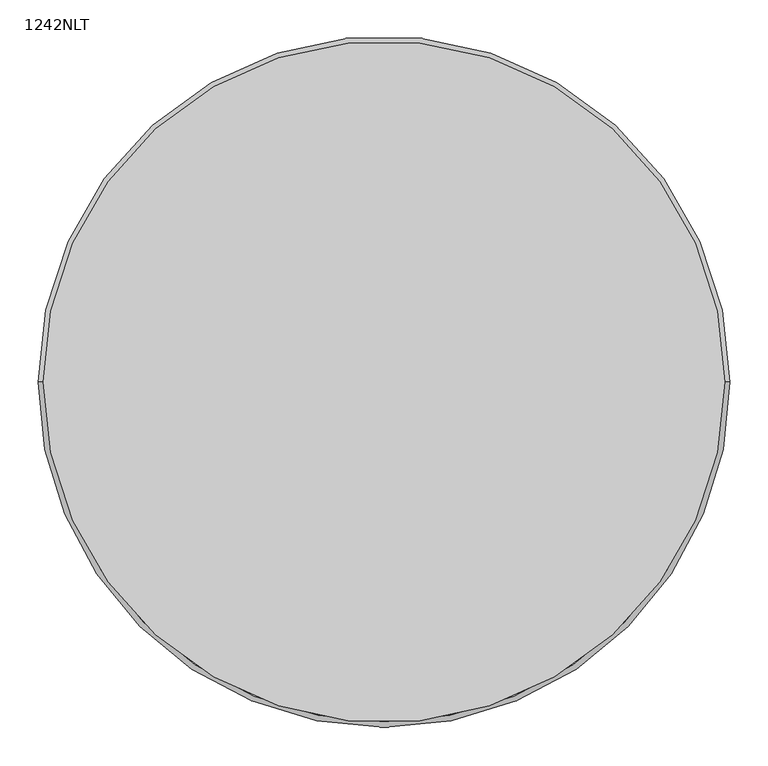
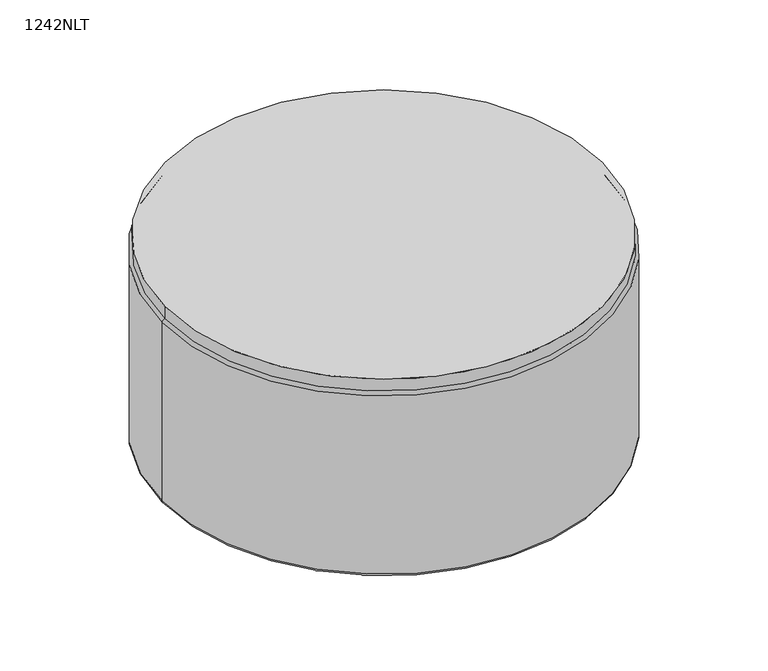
"""IFC4 building model written with IfcOpenShell, lengths in millimetres: furniture geometry, Laguna-Round_Ottomans-No_Legs-ERG : 1242NLT."""

from ifc_helpers import new_model, si_unit, point, frame, frame_2d, origin, place, context, project, spatial, circle_curve, ellipse_curve, trimmed, segment, composite_curve, outline, extrude, source, transform, mapped, element, save
from ifc_brep_helpers import plane_surface, cylinder_surface, revolved_surface, advanced_brep


def furniture_1242nlt_74572b88(model_context):
    return source(origin(), model_context, "Body", "SolidModel", [
        extrude(outline(composite_curve([segment(trimmed(circle_curve(frame_2d((-4662.7421763, 1234.1558502)), 444.5), [point((-5107.2421763, 1234.1558502))], [point((-4218.2421763, 1234.1558502))], False, "CARTESIAN"), True, "CONTINUOUS"), segment(trimmed(circle_curve(frame_2d((-4662.7421763, 1234.1558502)), 444.5), [point((-4218.2421763, 1234.1558502))], [point((-5107.2421763, 1234.1558502))], False, "CARTESIAN"), True, "CONTINUOUS")], self_intersect=False)), frame((0.0, 0.0, 406.4), z_axis=(0.0, 0.0, 1.0), x_axis=(1.0, 0.0, 0.0)), (0.0, 0.0, 1.0), 25.4),
        advanced_brep(
        [(-4243.6421763, 1234.1558502, 10.16), (-4247.8852245, 1234.1558502, 10.16), (-4239.3991282, 1234.1558502, 10.16), (-4229.5638229, 1234.1558502, 0.0), (-4257.7205297, 1234.1558502, 0.0), (-4243.6421763, 1234.1558502, 0.0), (-4229.5638229, 1234.1558502, 3.9615026), (-4257.7205297, 1234.1558502, 3.9615026), (-4239.3991282, 1234.1558502, 3.9615026), (-4247.8852245, 1234.1558502, 3.9615026)],
        [
            (0, 1),
            (1, 2, circle_curve(frame((-4243.6421763, 1234.1558502, 10.16), z_axis=(0.0, 0.0, 1.0), x_axis=(-1.0, 0.0, 0.0)), 4.2430482)),
            (2, 0),
            (2, 1, circle_curve(frame((-4243.6421763, 1234.1558502, 10.16), z_axis=(0.0, 0.0, 1.0), x_axis=(-1.0, 0.0, 0.0)), 4.2430482)),
            (3, 4, circle_curve(frame((-4243.6421763, 1234.1558502, 0.0), z_axis=(0.0, 0.0, -1.0), x_axis=(-1.0, 0.0, 0.0)), 14.0783534)),
            (4, 5),
            (5, 3),
            (4, 3, circle_curve(frame((-4243.6421763, 1234.1558502, 0.0), z_axis=(0.0, 0.0, -1.0), x_axis=(-1.0, 0.0, 0.0)), 14.0783534)),
            (6, 7, circle_curve(frame((-4243.6421763, 1234.1558502, 3.9615026), z_axis=(0.0, 0.0, -1.0), x_axis=(-1.0, 0.0, 0.0)), 14.0783534)),
            (7, 4),
            (3, 6),
            (7, 6, circle_curve(frame((-4243.6421763, 1234.1558502, 3.9615026), z_axis=(0.0, 0.0, -1.0), x_axis=(-1.0, 0.0, 0.0)), 14.0783534)),
            (8, 9, circle_curve(frame((-4243.6421763, 1234.1558502, 3.9615026), z_axis=(0.0, 0.0, -1.0), x_axis=(-1.0, 0.0, 0.0)), 4.2430482)),
            (9, 7),
            (6, 8),
            (9, 8, circle_curve(frame((-4243.6421763, 1234.1558502, 3.9615026), z_axis=(0.0, 0.0, -1.0), x_axis=(-1.0, 0.0, 0.0)), 4.2430482)),
            (1, 9),
            (8, 2),
        ],
        [
            plane_surface(frame((-4243.6421763, 1234.1558502, 10.16), z_axis=(0.0, 0.0, 1.0), x_axis=(-1.0, 0.0, 0.0))),
            plane_surface(frame((-4243.6421763, 1234.1558502, 0.0), z_axis=(0.0, 0.0, -1.0), x_axis=(-1.0, 0.0, 0.0))),
            cylinder_surface(frame((-4243.6421763, 1234.1558502, 80.01), z_axis=(0.0, 0.0, 1.0), x_axis=(-1.0, 0.0, 0.0)), 14.0783534),
            plane_surface(frame((-4243.6421763, 1234.1558502, 3.9615026), z_axis=(0.0, 0.0, 1.0), x_axis=(-1.0, 0.0, 0.0))),
            cylinder_surface(frame((-4243.6421763, 1234.1558502, 80.01), z_axis=(0.0, 0.0, 1.0), x_axis=(-1.0, 0.0, 0.0)), 4.2430482),
        ],
        [
            (0, [[1, 2, 3]]),
            (0, [[-3, 4, -1]]),
            (1, [[5, 6, 7]]),
            (1, [[8, -7, -6]]),
            (2, [[9, 10, -5, 11]]),
            (2, [[12, -11, -8, -10]]),
            (3, [[13, 14, -9, 15]]),
            (3, [[16, -15, -12, -14]]),
            (4, [[-2, 17, -13, 18]]),
            (4, [[-4, -18, -16, -17]]),
        ],
    ),
        advanced_brep(
        [(-5086.0852245, 1234.1558502, 3.9615026), (-5077.5991282, 1234.1558502, 3.9615026), (-5077.5991282, 1234.1558502, 10.16), (-5086.0852245, 1234.1558502, 10.16), (-5095.9205297, 1234.1558502, 3.9615026), (-5067.7638229, 1234.1558502, 3.9615026), (-5095.9205297, 1234.1558502, 0.0), (-5067.7638229, 1234.1558502, 0.0), (-5081.8421763, 1234.1558502, 0.0), (-5081.8421763, 1234.1558502, 10.16)],
        [
            (0, 1, circle_curve(frame((-5081.8421763, 1234.1558502, 3.9615026), z_axis=(0.0, 0.0, 1.0), x_axis=(1.0, 0.0, 0.0)), 4.2430482)),
            (1, 2),
            (2, 3, circle_curve(frame((-5081.8421763, 1234.1558502, 10.16), z_axis=(0.0, 0.0, -1.0), x_axis=(1.0, 0.0, 0.0)), 4.2430482)),
            (3, 0),
            (1, 0, circle_curve(frame((-5081.8421763, 1234.1558502, 3.9615026), z_axis=(0.0, 0.0, 1.0), x_axis=(1.0, 0.0, 0.0)), 4.2430482)),
            (3, 2, circle_curve(frame((-5081.8421763, 1234.1558502, 10.16), z_axis=(0.0, 0.0, -1.0), x_axis=(1.0, 0.0, 0.0)), 4.2430482)),
            (4, 5, circle_curve(frame((-5081.8421763, 1234.1558502, 3.9615026), z_axis=(0.0, 0.0, 1.0), x_axis=(1.0, 0.0, 0.0)), 14.0783534)),
            (5, 1),
            (0, 4),
            (5, 4, circle_curve(frame((-5081.8421763, 1234.1558502, 3.9615026), z_axis=(0.0, 0.0, 1.0), x_axis=(1.0, 0.0, 0.0)), 14.0783534)),
            (6, 7, circle_curve(frame((-5081.8421763, 1234.1558502, 0.0), z_axis=(0.0, 0.0, 1.0), x_axis=(1.0, 0.0, 0.0)), 14.0783534)),
            (7, 5),
            (4, 6),
            (7, 6, circle_curve(frame((-5081.8421763, 1234.1558502, 0.0), z_axis=(0.0, 0.0, 1.0), x_axis=(1.0, 0.0, 0.0)), 14.0783534)),
            (8, 7),
            (6, 8),
            (2, 9),
            (9, 3),
        ],
        [
            cylinder_surface(frame((-5081.8421763, 1234.1558502, 29.21), z_axis=(0.0, 0.0, -1.0), x_axis=(1.0, 0.0, 0.0)), 4.2430482),
            plane_surface(frame((-5081.8421763, 1234.1558502, 3.9615026), z_axis=(0.0, 0.0, 1.0), x_axis=(1.0, 0.0, 0.0))),
            cylinder_surface(frame((-5081.8421763, 1234.1558502, 29.21), z_axis=(0.0, 0.0, -1.0), x_axis=(1.0, 0.0, 0.0)), 14.0783534),
            plane_surface(frame((-5081.8421763, 1234.1558502, 0.0), z_axis=(0.0, 0.0, -1.0), x_axis=(1.0, 0.0, 0.0))),
            plane_surface(frame((-5081.8421763, 1234.1558502, 10.16), z_axis=(0.0, 0.0, 1.0), x_axis=(1.0, 0.0, 0.0))),
        ],
        [
            (0, [[1, 2, 3, 4]]),
            (0, [[5, -4, 6, -2]]),
            (1, [[7, 8, -1, 9]]),
            (1, [[10, -9, -5, -8]]),
            (2, [[11, 12, -7, 13]]),
            (2, [[14, -13, -10, -12]]),
            (3, [[15, -11, 16]]),
            (3, [[-16, -14, -15]]),
            (4, [[-3, 17, 18]]),
            (4, [[-6, -18, -17]]),
        ],
    ),
        advanced_brep(
        [(-4662.7421763, 819.2988983, 3.9615026), (-4662.7421763, 810.812802, 3.9615026), (-4662.7421763, 810.812802, 10.16), (-4662.7421763, 819.2988983, 10.16), (-4662.7421763, 829.1342036, 3.9615026), (-4662.7421763, 800.9774967, 3.9615026), (-4662.7421763, 829.1342036, 0.0), (-4662.7421763, 800.9774967, 0.0), (-4662.7421763, 815.0558502, 0.0), (-4662.7421763, 815.0558502, 10.16)],
        [
            (0, 1, circle_curve(frame((-4662.7421763, 815.0558502, 3.9615026), z_axis=(0.0, 0.0, 1.0), x_axis=(0.0, -1.0, 0.0)), 4.2430482)),
            (1, 2),
            (2, 3, circle_curve(frame((-4662.7421763, 815.0558502, 10.16), z_axis=(0.0, 0.0, -1.0), x_axis=(0.0, -1.0, 0.0)), 4.2430482)),
            (3, 0),
            (1, 0, circle_curve(frame((-4662.7421763, 815.0558502, 3.9615026), z_axis=(0.0, 0.0, 1.0), x_axis=(0.0, -1.0, 0.0)), 4.2430482)),
            (3, 2, circle_curve(frame((-4662.7421763, 815.0558502, 10.16), z_axis=(0.0, 0.0, -1.0), x_axis=(0.0, -1.0, 0.0)), 4.2430482)),
            (4, 5, circle_curve(frame((-4662.7421763, 815.0558502, 3.9615026), z_axis=(0.0, 0.0, 1.0), x_axis=(0.0, -1.0, 0.0)), 14.0783534)),
            (5, 1),
            (0, 4),
            (5, 4, circle_curve(frame((-4662.7421763, 815.0558502, 3.9615026), z_axis=(0.0, 0.0, 1.0), x_axis=(0.0, -1.0, 0.0)), 14.0783534)),
            (6, 7, circle_curve(frame((-4662.7421763, 815.0558502, 0.0), z_axis=(0.0, 0.0, 1.0), x_axis=(0.0, -1.0, 0.0)), 14.0783534)),
            (7, 5),
            (4, 6),
            (7, 6, circle_curve(frame((-4662.7421763, 815.0558502, 0.0), z_axis=(0.0, 0.0, 1.0), x_axis=(0.0, -1.0, 0.0)), 14.0783534)),
            (8, 7),
            (6, 8),
            (2, 9),
            (9, 3),
        ],
        [
            cylinder_surface(frame((-4662.7421763, 815.0558502, 39.775957), z_axis=(0.0, 0.0, -1.0), x_axis=(0.0, -1.0, 0.0)), 4.2430482),
            plane_surface(frame((-4662.7421763, 815.0558502, 3.9615026), z_axis=(0.0, 0.0, 1.0), x_axis=(0.0, -1.0, 0.0))),
            cylinder_surface(frame((-4662.7421763, 815.0558502, 39.775957), z_axis=(0.0, 0.0, -1.0), x_axis=(0.0, -1.0, 0.0)), 14.0783534),
            plane_surface(frame((-4662.7421763, 815.0558502, 0.0), z_axis=(0.0, 0.0, -1.0), x_axis=(0.0, -1.0, 0.0))),
            plane_surface(frame((-4662.7421763, 815.0558502, 10.16), z_axis=(0.0, 0.0, 1.0), x_axis=(0.0, -1.0, 0.0))),
        ],
        [
            (0, [[1, 2, 3, 4]]),
            (0, [[5, -4, 6, -2]]),
            (1, [[7, 8, -1, 9]]),
            (1, [[10, -9, -5, -8]]),
            (2, [[11, 12, -7, 13]]),
            (2, [[14, -13, -10, -12]]),
            (3, [[15, -11, 16]]),
            (3, [[-16, -14, -15]]),
            (4, [[-3, 17, 18]]),
            (4, [[-6, -18, -17]]),
        ],
    ),
        advanced_brep(
        [(-4662.7421763, 1657.4988983, 3.9615026), (-4662.7421763, 1649.012802, 3.9615026), (-4662.7421763, 1649.012802, 10.16), (-4662.7421763, 1657.4988983, 10.16), (-4662.7421763, 1667.3342036, 3.9615026), (-4662.7421763, 1639.1774967, 3.9615026), (-4662.7421763, 1667.3342036, 0.0), (-4662.7421763, 1639.1774967, 0.0), (-4662.7421763, 1653.2558502, 0.0), (-4662.7421763, 1653.2558502, 10.16)],
        [
            (0, 1, circle_curve(frame((-4662.7421763, 1653.2558502, 3.9615026), z_axis=(0.0, 0.0, 1.0), x_axis=(0.0, -1.0, 0.0)), 4.2430482)),
            (1, 2),
            (2, 3, circle_curve(frame((-4662.7421763, 1653.2558502, 10.16), z_axis=(0.0, 0.0, -1.0), x_axis=(0.0, -1.0, 0.0)), 4.2430482)),
            (3, 0),
            (1, 0, circle_curve(frame((-4662.7421763, 1653.2558502, 3.9615026), z_axis=(0.0, 0.0, 1.0), x_axis=(0.0, -1.0, 0.0)), 4.2430482)),
            (3, 2, circle_curve(frame((-4662.7421763, 1653.2558502, 10.16), z_axis=(0.0, 0.0, -1.0), x_axis=(0.0, -1.0, 0.0)), 4.2430482)),
            (4, 5, circle_curve(frame((-4662.7421763, 1653.2558502, 3.9615026), z_axis=(0.0, 0.0, 1.0), x_axis=(0.0, -1.0, 0.0)), 14.0783534)),
            (5, 1),
            (0, 4),
            (5, 4, circle_curve(frame((-4662.7421763, 1653.2558502, 3.9615026), z_axis=(0.0, 0.0, 1.0), x_axis=(0.0, -1.0, 0.0)), 14.0783534)),
            (6, 7, circle_curve(frame((-4662.7421763, 1653.2558502, 0.0), z_axis=(0.0, 0.0, 1.0), x_axis=(0.0, -1.0, 0.0)), 14.0783534)),
            (7, 5),
            (4, 6),
            (7, 6, circle_curve(frame((-4662.7421763, 1653.2558502, 0.0), z_axis=(0.0, 0.0, 1.0), x_axis=(0.0, -1.0, 0.0)), 14.0783534)),
            (8, 7),
            (6, 8),
            (2, 9),
            (9, 3),
        ],
        [
            cylinder_surface(frame((-4662.7421763, 1653.2558502, 48.26), z_axis=(0.0, 0.0, -1.0), x_axis=(0.0, -1.0, 0.0)), 4.2430482),
            plane_surface(frame((-4662.7421763, 1653.2558502, 3.9615026), z_axis=(0.0, 0.0, 1.0), x_axis=(0.0, -1.0, 0.0))),
            cylinder_surface(frame((-4662.7421763, 1653.2558502, 48.26), z_axis=(0.0, 0.0, -1.0), x_axis=(0.0, -1.0, 0.0)), 14.0783534),
            plane_surface(frame((-4662.7421763, 1653.2558502, 0.0), z_axis=(0.0, 0.0, -1.0), x_axis=(0.0, -1.0, 0.0))),
            plane_surface(frame((-4662.7421763, 1653.2558502, 10.16), z_axis=(0.0, 0.0, 1.0), x_axis=(0.0, -1.0, 0.0))),
        ],
        [
            (0, [[1, 2, 3, 4]]),
            (0, [[5, -4, 6, -2]]),
            (1, [[7, 8, -1, 9]]),
            (1, [[10, -9, -5, -8]]),
            (2, [[11, 12, -7, 13]]),
            (2, [[14, -13, -10, -12]]),
            (3, [[15, -11, 16]]),
            (3, [[-16, -14, -15]]),
            (4, [[-3, 17, 18]]),
            (4, [[-6, -18, -17]]),
        ],
    ),
        advanced_brep(
        [(-4211.881116, 1234.1558502, 399.8831003), (-5113.6032366, 1234.1558502, 399.8831003), (-5113.6032366, 1234.1558502, 16.6768997), (-4211.881116, 1234.1558502, 16.6768997), (-4218.8439761, 1234.1558502, 406.4), (-5106.6403765, 1234.1558502, 406.4), (-5106.6403765, 1234.1558502, 10.16), (-4218.8439761, 1234.1558502, 10.16)],
        [
            (0, 1, circle_curve(frame((-4662.7421763, 1234.1558502, 399.8831003), z_axis=(0.0, 0.0, -1.0), x_axis=(-1.0, 0.0, 0.0)), 450.8610603)),
            (1, 2, circle_curve(frame((-2221.0401763, 1234.1558502, 208.28), z_axis=(0.0, -1.0, 0.0), x_axis=(1.0, 0.0, 0.0)), 2898.902)),
            (2, 3, circle_curve(frame((-4662.7421763, 1234.1558502, 16.6768997), z_axis=(0.0, 0.0, 1.0), x_axis=(-1.0, 0.0, 0.0)), 450.8610603)),
            (3, 0, circle_curve(frame((-7104.4441763, 1234.1558502, 208.28), z_axis=(0.0, -1.0, 0.0), x_axis=(-1.0, 0.0, 0.0)), 2898.902)),
            (0, 4, circle_curve(frame((-4218.8439761, 1234.1558502, 399.4218811), z_axis=(0.0, -1.0, 0.0), x_axis=(-1.0, 0.0, 0.0)), 6.9781189)),
            (4, 5, circle_curve(frame((-4662.7421763, 1234.1558502, 406.4), z_axis=(0.0, 0.0, -1.0), x_axis=(-1.0, 0.0, 0.0)), 443.8982002)),
            (5, 1, circle_curve(frame((-5106.6403765, 1234.1558502, 399.4218811), z_axis=(0.0, -1.0, 0.0), x_axis=(1.0, 0.0, 0.0)), 6.9781189)),
            (2, 6, circle_curve(frame((-5106.6403765, 1234.1558502, 17.1381189), z_axis=(0.0, -1.0, 0.0), x_axis=(1.0, 0.0, 0.0)), 6.9781189)),
            (6, 7, circle_curve(frame((-4662.7421763, 1234.1558502, 10.16), z_axis=(0.0, 0.0, 1.0), x_axis=(-1.0, 0.0, 0.0)), 443.8982002)),
            (7, 3, circle_curve(frame((-4218.8439761, 1234.1558502, 17.1381189), z_axis=(0.0, -1.0, 0.0), x_axis=(-1.0, 0.0, 0.0)), 6.9781189)),
            (1, 0, circle_curve(frame((-4662.7421763, 1234.1558502, 399.8831003), z_axis=(0.0, 0.0, -1.0), x_axis=(1.0, 0.0, 0.0)), 450.8610603)),
            (3, 2, circle_curve(frame((-4662.7421763, 1234.1558502, 16.6768997), z_axis=(0.0, 0.0, 1.0), x_axis=(1.0, 0.0, 0.0)), 450.8610603)),
            (5, 4, circle_curve(frame((-4662.7421763, 1234.1558502, 406.4), z_axis=(0.0, 0.0, -1.0), x_axis=(1.0, 0.0, 0.0)), 443.8982002)),
            (7, 6, circle_curve(frame((-4662.7421763, 1234.1558502, 10.16), z_axis=(0.0, 0.0, 1.0), x_axis=(1.0, 0.0, 0.0)), 443.8982002)),
        ],
        [
            revolved_surface(trimmed(ellipse_curve(frame((-2221.0401763, 1234.1558502, 208.28), z_axis=(0.0, 1.0, 0.0), x_axis=(1.0, 0.0, 0.0)), 2898.902, 2898.902), [point((-5113.6032366, 1234.1558502, 16.6768997))], [point((-5113.6032366, 1234.1558502, 399.8831003))], True, "CARTESIAN"), (-4662.7421763, 1234.1558502, 0.0), (0.0, 0.0, 1.0)),
            revolved_surface(trimmed(ellipse_curve(frame((-5106.6403765, 1234.1558502, 399.4218811), z_axis=(0.0, 1.0, 0.0), x_axis=(1.0, 0.0, 0.0)), 6.9781189, 6.9781189), [point((-5113.6032366, 1234.1558502, 399.8831003))], [point((-5106.6403765, 1234.1558502, 406.4))], True, "CARTESIAN"), (-4662.7421763, 1234.1558502, 0.0), (0.0, 0.0, 1.0)),
            revolved_surface(trimmed(ellipse_curve(frame((-5106.6403765, 1234.1558502, 17.1381189), z_axis=(0.0, 1.0, 0.0), x_axis=(1.0, 0.0, 0.0)), 6.9781189, 6.9781189), [point((-5106.6403765, 1234.1558502, 10.16))], [point((-5113.6032366, 1234.1558502, 16.6768997))], True, "CARTESIAN"), (-4662.7421763, 1234.1558502, 0.0), (0.0, 0.0, 1.0)),
            revolved_surface(trimmed(ellipse_curve(frame((-7104.4441763, 1234.1558502, 208.28), z_axis=(0.0, -1.0, 0.0), x_axis=(-1.0, 0.0, 0.0)), 2898.902, 2898.902), [point((-4211.881116, 1234.1558502, 16.6768997))], [point((-4211.881116, 1234.1558502, 399.8831003))], True, "CARTESIAN"), (-4662.7421763, 1234.1558502, 0.0), (0.0, 0.0, 1.0)),
            revolved_surface(trimmed(ellipse_curve(frame((-4218.8439761, 1234.1558502, 399.4218811), z_axis=(0.0, -1.0, 0.0), x_axis=(-1.0, 0.0, 0.0)), 6.9781189, 6.9781189), [point((-4211.881116, 1234.1558502, 399.8831003))], [point((-4218.8439761, 1234.1558502, 406.4))], True, "CARTESIAN"), (-4662.7421763, 1234.1558502, 0.0), (0.0, 0.0, 1.0)),
            revolved_surface(trimmed(ellipse_curve(frame((-4218.8439761, 1234.1558502, 17.1381189), z_axis=(0.0, -1.0, 0.0), x_axis=(-1.0, 0.0, 0.0)), 6.9781189, 6.9781189), [point((-4218.8439761, 1234.1558502, 10.16))], [point((-4211.881116, 1234.1558502, 16.6768997))], True, "CARTESIAN"), (-4662.7421763, 1234.1558502, 0.0), (0.0, 0.0, 1.0)),
            plane_surface(frame((-4218.8439761, 1234.1558502, 406.4), z_axis=(0.0, 0.0, 1.0), x_axis=(0.0, 1.0, 0.0))),
            plane_surface(frame((-4218.8439761, 1234.1558502, 10.16), z_axis=(0.0, 0.0, -1.0), x_axis=(0.0, -1.0, 0.0))),
        ],
        [
            (0, [[1, 2, 3, 4]]),
            (1, [[-1, 5, 6, 7]]),
            (2, [[-3, 8, 9, 10]]),
            (3, [[-2, 11, -4, 12]]),
            (4, [[-7, 13, -5, -11]]),
            (5, [[-8, -12, -10, 14]]),
            (6, [[-6, -13]]),
            (7, [[-9, -14]]),
        ],
    ),
    ])


if __name__ == "__main__":
    model = new_model("IFC4")
    model_context = context("Model", 3, world=origin())
    ifc_project = project(units=[si_unit("LENGTHUNIT", "METRE", prefix="MILLI")], contexts=[model_context])
    site = spatial("IfcSite", under=ifc_project)
    building = spatial("IfcBuilding", under=site)
    placement = place(None, origin())
    furniture_1242nlt_shape = furniture_1242nlt_74572b88(model_context)
    element("IfcFurniture", 1, ObjectType="Laguna-Round_Ottomans-No_Legs-ERG : 1242NLT", at=placement, inside=building, context=model_context, shape_type="MappedRepresentation", body=[
        mapped(furniture_1242nlt_shape, transform((0.0, 0.0, 0.0), x_axis=(1.0, 0.0, 0.0), y_axis=(0.0, 1.0, 0.0), z_axis=(0.0, 0.0, 1.0))),
    ])
    save(model, "model.ifc")
